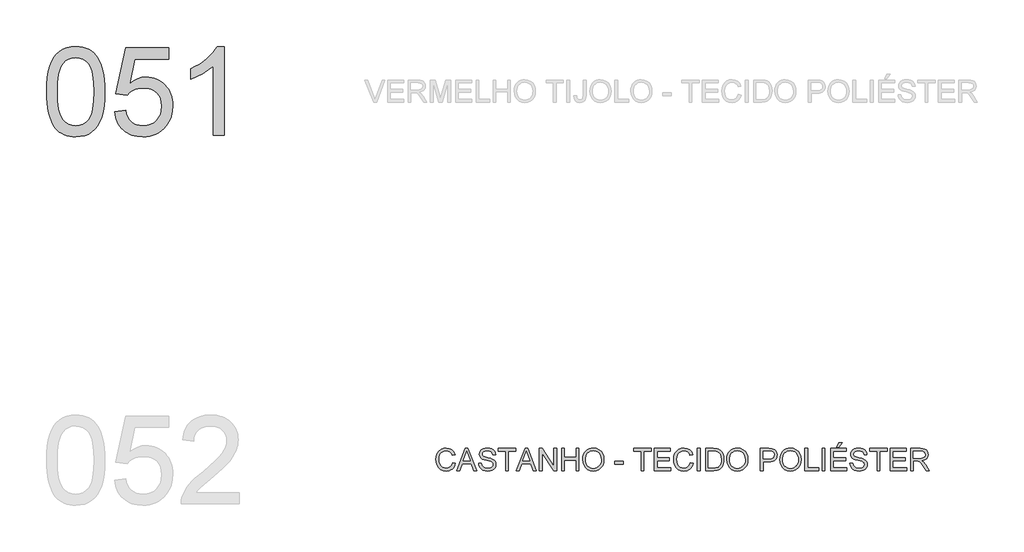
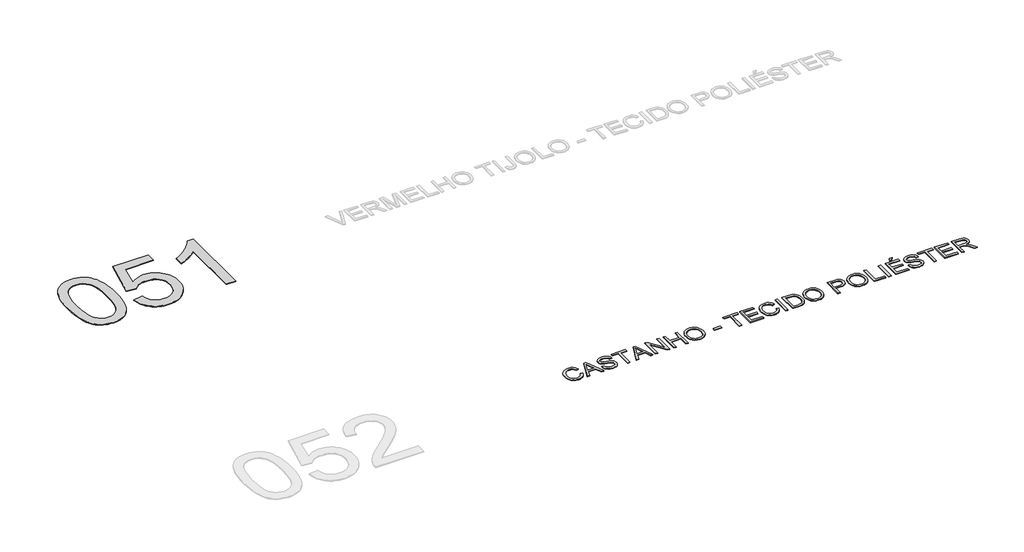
# One storey, part 23 of 39: 2 proxies.
"""IFC4 building model written with IfcOpenShell, lengths in millimetres."""

from ifc_helpers import new_model, si_unit, origin, origin_with_axes, place, context, project, spatial, polyline, outline, extrude, element, save

model = new_model("IFC4")

# Units and contexts
model_context = context("Model", 3, world=origin())
ifc_project = project(units=[si_unit("LENGTHUNIT", "METRE", prefix="MILLI")], contexts=[model_context])

# Site, building, storey
site = spatial("IfcSite", under=ifc_project)
building = spatial("IfcBuilding", under=site)
storey = spatial("IfcBuildingStorey", under=building, Name="Marelli - Linha PROFIT - Planta Baixa", Elevation=0.0)

# Proxies
placement = place(None, origin())
element("IfcBuildingElementProxy", 1, Name="1200mm Arial", ObjectType="1200mm Arial", at=placement, inside=storey, context=model_context, shape_type="SweptSolid", body=[
    extrude(outline(polyline([(-25228.2202746, -39387.5405438), (-25225.4519626, -39286.1798571), (-25217.1470265, -39194.5864374), (-25203.3054665, -39112.7602846), (-25183.9272824, -39040.7013988), (-25159.0952477, -38977.8211688), (-25128.8921359, -38923.5309833), (-25093.317947, -38877.8308425), (-25052.3726809, -38840.7207462), (-25005.918382, -38812.0075565), (-24953.8170944, -38791.4981353), (-24896.0688182, -38779.1924825), (-24832.6735534, -38775.0905983), (-24785.032835, -38777.5186194), (-24739.8201378, -38784.8026829), (-24697.0354618, -38796.9427888), (-24656.6788069, -38813.938937), (-24619.7250605, -38835.5060189), (-24587.1491098, -38861.3589261), (-24558.9509549, -38891.4976586), (-24535.1305957, -38925.9222163), (-24514.4924157, -38964.4946435), (-24495.8407986, -39007.0769844), (-24464.4972526, -39104.2714076), (-24452.5226937, -39161.4310726), (-24443.9694373, -39227.6958169), (-24438.8374834, -39303.0656407), (-24437.1268322, -39387.5405438), (-24439.867553, -39488.2574371), (-24448.0897156, -39579.3910043), (-24461.7933199, -39660.9412456), (-24480.978366, -39732.9081609), (-24505.6172626, -39795.8159821), (-24535.6824187, -39850.188941), (-24571.1738342, -39896.0270376), (-24612.0915091, -39933.3302719), (-24658.6009903, -39962.2365997), (-24710.8678248, -39982.8839766), (-24768.8920125, -39995.2724028), (-24832.6735534, -39999.4018782), (-24875.3478648, -39997.6084535), (-24915.6677315, -39992.2281793), (-24953.6331534, -39983.2610557), (-24989.2441305, -39970.7070826), (-25022.5006629, -39954.5662601), (-25053.4027505, -39934.8385881), (-25081.9503933, -39911.5240666), (-25108.1435914, -39884.6226957), (-25136.286564, -39842.0265592), (-25160.6771403, -39793.8478134), (-25181.3153202, -39740.0864583), (-25198.2011038, -39680.742494), (-25211.334491, -39615.8159204), (-25220.7154819, -39545.3067375), (-25226.3440764, -39469.2149453), (-25228.2202746, -39387.5405438)]), holes=[polyline([(-25077.5358094, -39387.2462382), (-25073.1212254, -39518.2398197), (-25059.8774736, -39624.2726077), (-25049.9446597, -39667.9287043), (-25037.8045539, -39705.3446024), (-25023.4571561, -39736.5203023), (-25006.9024663, -39761.4558037), (-24969.5256556, -39799.6327578), (-24928.0285665, -39826.9020107), (-24882.4111991, -39843.2635624), (-24832.6735534, -39848.717413), (-24782.9359076, -39843.2451683), (-24737.3185402, -39826.8284343), (-24695.8214512, -39799.4672109), (-24658.4446405, -39761.1614981), (-24641.8899507, -39736.1662158), (-24627.5425529, -39704.9583263), (-24615.402447, -39667.5378296), (-24605.4696332, -39623.9047257), (-24592.2258813, -39518.0006964), (-24587.8112974, -39387.2462382), (-24592.0787285, -39259.7199446), (-24604.881022, -39155.5541577), (-24614.482742, -39112.2314542), (-24626.2181777, -39074.7488774), (-24640.0873289, -39043.1064273), (-24656.0901957, -39017.3041039), (-24692.841607, -38977.2601487), (-24734.8169427, -38948.6573236), (-24782.0162026, -38931.4956285), (-24834.4393869, -38925.7750635), (-24883.9195153, -38930.8150468), (-24928.7643305, -38945.9349968), (-24968.9738326, -38971.1349135), (-25004.5480215, -39006.4147968), (-25021.6545343, -39034.9624397), (-25036.4801787, -39068.954736), (-25049.0249547, -39108.3916859), (-25059.2888624, -39153.2732893), (-25072.9740726, -39259.3704567), (-25077.5358094, -39387.2462382)])]), origin_with_axes(), (0.0, 0.0, 1.0), 10.0),
    extrude(outline(polyline([(-24305.2779251, -39660.3618315), (-24154.5934599, -39641.5262733), (-24143.3362708, -39689.967135), (-24126.9287338, -39731.9884559), (-24105.3708489, -39767.590236), (-24078.6626161, -39796.7724753), (-24046.8592176, -39819.4983855), (-24010.0158358, -39835.7311786), (-23968.1324706, -39845.4708544), (-23921.2091221, -39848.717413), (-23863.8195309, -39844.2016615), (-23813.1989683, -39830.654407), (-23769.3474345, -39808.0756496), (-23732.2649294, -39776.4653891), (-23702.7791875, -39737.3871242), (-23681.7179433, -39692.4043532), (-23669.0811967, -39641.5170763), (-23664.8689479, -39584.7252933), (-23668.8144823, -39531.0513102), (-23680.6510855, -39483.3370154), (-23700.3787575, -39441.5824089), (-23727.9974983, -39405.7874908), (-23763.5992783, -39377.0743011), (-23807.2760682, -39356.5648798), (-23859.0278679, -39344.2592271), (-23918.8546774, -39340.1573429), (-23957.141996, -39341.7944177), (-23991.9528298, -39346.7056424), (-24023.2871787, -39354.8910168), (-24051.1450428, -39366.3505409), (-24098.4178792, -39396.4432881), (-24135.7579017, -39434.3351336), (-24286.4423669, -39415.4995755), (-24154.5934599, -38793.9261564), (-23570.6911571, -38793.9261564), (-23570.6911571, -38944.6106217), (-24032.7509431, -38944.6106217), (-24097.2038686, -39276.5873341), (-24044.0265262, -39238.4747594), (-23989.5615968, -39211.2514918), (-23933.8090805, -39194.9175312), (-23876.7689771, -39189.4728776), (-23839.3300863, -39191.1605363), (-23803.3857161, -39196.2235123), (-23768.9358665, -39204.6618055), (-23735.9805376, -39216.4754161), (-23704.5197292, -39231.664344), (-23674.5534414, -39250.2285891), (-23646.0816742, -39272.1681516), (-23619.1044277, -39297.4830314), (-23594.5138156, -39325.4512601), (-23573.2019517, -39355.3508693), (-23555.1688362, -39387.1818589), (-23540.4144689, -39420.944229), (-23528.9388499, -39456.6379796), (-23520.7419792, -39494.2631106), (-23515.8238568, -39533.8196222), (-23514.1844827, -39575.3075142), (-23520.0889887, -39653.3720736), (-23527.4696212, -39690.3626082), (-23537.8025067, -39725.9919794), (-23551.0876453, -39760.2601873), (-23567.3250369, -39793.1672317), (-23586.5146814, -39824.7131128), (-23608.656579, -39854.8978305), (-23638.6573557, -39888.7659667), (-23671.2700946, -39918.1183514), (-23706.4947956, -39942.9549846), (-23744.3314588, -39963.2758663), (-23784.7800842, -39979.0809965), (-23827.8406717, -39990.3703752), (-23873.5132214, -39997.1440025), (-23921.7977333, -39999.4018782), (-23999.55879, -39993.5985397), (-24035.6181234, -39986.3443667), (-24069.79666, -39976.1885243), (-24102.0943999, -39963.1310128), (-24132.5113431, -39947.171832), (-24161.0474896, -39928.3109819), (-24187.7028394, -39906.5484626), (-24212.0405327, -39882.3901119), (-24233.6237095, -39856.3417673), (-24252.4523698, -39828.4034291), (-24268.5265138, -39798.5750971), (-24281.8461413, -39766.8567713), (-24292.4112523, -39733.2484518), (-24305.2779251, -39660.3618315)])), origin_with_axes(), (0.0, 0.0, 1.0), 10.0),
    extrude(outline(polyline([(-22817.268831, -39980.5663201), (-22967.9532962, -39980.5663201), (-22967.9532962, -39041.1428572), (-23030.8611174, -39092.0209371), (-23110.6915103, -39142.8254407), (-23194.4950289, -39187.2287975), (-23269.3222267, -39218.9034373), (-23269.3222267, -39076.4595287), (-23208.171042, -39045.7965644), (-23150.9745888, -39012.0801796), (-23097.7328671, -38975.3103741), (-23048.4458768, -38935.4871482), (-23004.5851459, -38894.4499116), (-22967.6222024, -38854.0380744), (-22937.5570464, -38814.2516367), (-22914.3896777, -38775.0905983), (-22817.268831, -38775.0905983), (-22817.268831, -39980.5663201)])), origin_with_axes(), (0.0, 0.0, 1.0), 10.0),
])
element("IfcBuildingElementProxy", 2, Name="300mm Arial", ObjectType="300mm Arial", at=placement, inside=storey, context=model_context, shape_type="SweptSolid", body=[
    extrude(outline(polyline([(-19717.7261045, -44423.4390831), (-19680.0549882, -44433.1511677), (-19687.5091971, -44456.5783531), (-19697.4374125, -44477.0486868), (-19709.8396342, -44494.5621691), (-19724.7158624, -44509.1187997), (-19741.7304047, -44520.5622291), (-19760.5475687, -44528.7361071), (-19781.1673546, -44533.640434), (-19803.5897622, -44535.2752096), (-19847.2849462, -44530.3271968), (-19881.9854153, -44515.4831583), (-19908.5832836, -44491.2581289), (-19927.9706647, -44458.1671434), (-19939.8072679, -44419.2636224), (-19943.7528023, -44377.6009865), (-19939.2922331, -44333.6574821), (-19925.9105256, -44295.7104543), (-19904.3066554, -44264.9647166), (-19875.1795984, -44242.6250824), (-19840.6354791, -44229.0226457), (-19802.7804218, -44224.4885001), (-19761.4764708, -44230.3562179), (-19743.5077346, -44237.6908652), (-19727.3278246, -44247.9593714), (-19713.2034552, -44260.8904235), (-19701.401341, -44276.2127086), (-19684.7638777, -44314.0309777), (-19722.434994, -44323.0072984), (-19735.4948049, -44295.5357104), (-19753.3370816, -44276.6909552), (-19776.1825535, -44265.7924511), (-19804.2519498, -44262.1596164), (-19836.6071712, -44266.1879242), (-19863.1866454, -44278.2728478), (-19883.3557758, -44297.1451941), (-19896.479966, -44321.5357704), (-19903.681256, -44349.1085259), (-19906.081686, -44377.5274101), (-19903.2397976, -44412.3290468), (-19894.7141324, -44442.421794), (-19880.1827936, -44466.6560205), (-19859.3238844, -44483.8820949), (-19834.3171058, -44494.1735937), (-19807.3421585, -44497.6040933), (-19775.897445, -44492.931992), (-19749.6950499, -44478.9156879), (-19729.9121956, -44455.702334), (-19717.7261045, -44423.4390831)])), origin_with_axes(), (0.0, 0.0, 1.0), 10.0),
    extrude(outline(polyline([(-19663.3531456, -44530.5663201), (-19543.0557332, -44229.1973896), (-19510.9764232, -44229.1973896), (-19390.6790108, -44530.5663201), (-19430.4838427, -44530.5663201), (-19464.9911738, -44436.3885293), (-19589.114559, -44436.3885293), (-19623.5483137, -44530.5663201), (-19663.3531456, -44530.5663201)]), holes=[polyline([(-19575.282196, -44398.717413), (-19478.7499604, -44398.717413), (-19505.8996517, -44324.6259792), (-19527.0160782, -44266.8685059), (-19545.77806, -44318.1512561), (-19575.282196, -44398.717413)])]), origin_with_axes(), (0.0, 0.0, 1.0), 10.0),
    extrude(outline(polyline([(-19364.5593891, -44426.9707502), (-19326.8882728, -44426.9707502), (-19322.5656594, -44447.8756446), (-19314.748167, -44464.6786547), (-19302.5528788, -44478.0143771), (-19285.0968782, -44488.517408), (-19263.7597225, -44495.332422), (-19239.9209692, -44497.6040933), (-19218.9333013, -44495.884245), (-19200.5575957, -44490.7247), (-19185.6675719, -44482.5577197), (-19175.1369498, -44471.8155654), (-19168.8737588, -44459.4823215), (-19166.7860285, -44446.5420724), (-19168.349527, -44433.932917), (-19173.0400224, -44423.0344129), (-19182.5681661, -44413.7361954), (-19198.6446093, -44405.9279001), (-19253.4958148, -44391.5437141), (-19289.5022651, -44382.0247675), (-19312.540875, -44372.9656733), (-19331.2936597, -44360.2921386), (-19344.5833968, -44344.9330653), (-19352.5020567, -44327.2195472), (-19355.1416101, -44307.4826782), (-19351.8766573, -44285.4189555), (-19342.0817992, -44264.845155), (-19326.0145531, -44247.4075484), (-19303.9324363, -44234.7524077), (-19277.4265386, -44227.054477), (-19248.0879495, -44224.4885001), (-19216.3029451, -44227.1740386), (-19188.4910662, -44235.2306543), (-19165.6455943, -44248.4928003), (-19148.7598108, -44266.7949295), (-19138.0728388, -44288.9966079), (-19133.8238018, -44313.9574013), (-19171.4949181, -44313.9574013), (-19178.4110996, -44291.4798114), (-19192.8320738, -44275.2562154), (-19215.364846, -44265.4337661), (-19246.6164215, -44262.1596164), (-19278.603761, -44265.3969779), (-19300.547922, -44275.1090626), (-19313.2398508, -44289.4012781), (-19317.4704938, -44306.3790322), (-19314.4722555, -44320.8551887), (-19305.4775407, -44332.4986539), (-19284.2139614, -44342.9097143), (-19243.9676711, -44353.541504), (-19202.4337939, -44363.6398648), (-19177.3074536, -44372.4506385), (-19155.8323421, -44386.1174547), (-19140.8503479, -44402.9848441), (-19132.0487711, -44422.868866), (-19129.1149122, -44445.5855792), (-19132.4902295, -44468.8081301), (-19142.6161814, -44490.6511236), (-19159.0789007, -44509.4498935), (-19181.4645201, -44523.539774), (-19208.3842851, -44532.3413507), (-19238.4494412, -44535.2752096), (-19275.3572024, -44532.1114244), (-19305.7350581, -44522.620069), (-19329.9324963, -44506.764355), (-19348.2990049, -44484.5074943), (-19360.0896229, -44457.3945912), (-19364.5593891, -44426.9707502)])), origin_with_axes(), (0.0, 0.0, 1.0), 10.0),
    extrude(outline(polyline([(-18997.2660051, -44530.5663201), (-18997.2660051, -44266.8685059), (-19096.1526855, -44266.8685059), (-19096.1526855, -44229.1973896), (-18860.7082085, -44229.1973896), (-18860.7082085, -44266.8685059), (-18959.5948888, -44266.8685059), (-18959.5948888, -44530.5663201), (-18997.2660051, -44530.5663201)])), origin_with_axes(), (0.0, 0.0, 1.0), 10.0),
    extrude(outline(polyline([(-18853.424145, -44530.5663201), (-18733.1267326, -44229.1973896), (-18701.0474226, -44229.1973896), (-18580.7500102, -44530.5663201), (-18620.5548421, -44530.5663201), (-18655.0621732, -44436.3885293), (-18779.1855584, -44436.3885293), (-18813.6193132, -44530.5663201), (-18853.424145, -44530.5663201)]), holes=[polyline([(-18765.3531954, -44398.717413), (-18668.8209599, -44398.717413), (-18695.9706511, -44324.6259792), (-18717.0870776, -44266.8685059), (-18735.8490594, -44318.1512561), (-18765.3531954, -44398.717413)])]), origin_with_axes(), (0.0, 0.0, 1.0), 10.0),
    extrude(outline(polyline([(-18540.5037199, -44530.5663201), (-18540.5037199, -44229.1973896), (-18500.1838533, -44229.1973896), (-18342.7303593, -44467.9528045), (-18342.7303593, -44229.1973896), (-18305.059243, -44229.1973896), (-18305.059243, -44530.5663201), (-18345.3791097, -44530.5663201), (-18502.8326036, -44291.7373288), (-18502.8326036, -44530.5663201), (-18540.5037199, -44530.5663201)])), origin_with_axes(), (0.0, 0.0, 1.0), 10.0),
    extrude(outline(polyline([(-18239.1347895, -44530.5663201), (-18239.1347895, -44229.1973896), (-18201.4636732, -44229.1973896), (-18201.4636732, -44351.6285176), (-18041.3614289, -44351.6285176), (-18041.3614289, -44229.1973896), (-18003.6903126, -44229.1973896), (-18003.6903126, -44530.5663201), (-18041.3614289, -44530.5663201), (-18041.3614289, -44389.2996339), (-18201.4636732, -44389.2996339), (-18201.4636732, -44530.5663201), (-18239.1347895, -44530.5663201)])), origin_with_axes(), (0.0, 0.0, 1.0), 10.0),
    extrude(outline(polyline([(-17951.8925277, -44383.8549804), (-17949.381733, -44348.5061192), (-17941.8493492, -44317.213157), (-17929.2953761, -44289.9760937), (-17911.7198138, -44266.7949295), (-17890.1757244, -44248.2858666), (-17865.7161703, -44235.0651074), (-17838.3411513, -44227.1326519), (-17808.0506675, -44224.4885001), (-17768.5217472, -44229.454907), (-17733.0763169, -44244.3541278), (-17703.6457573, -44268.1376988), (-17682.1614488, -44299.7571563), (-17669.0280616, -44337.68579), (-17664.6502658, -44380.3968896), (-17669.2579878, -44423.6782064), (-17683.0811538, -44462.140269), (-17705.3564086, -44493.8149087), (-17735.3203971, -44516.733957), (-17770.4623247, -44530.6398965), (-17808.2713967, -44535.2752096), (-17848.4073224, -44530.1524528), (-17884.0550877, -44514.7841825), (-17913.412071, -44490.5591531), (-17934.6756503, -44458.8661192), (-17947.5883083, -44422.3998164), (-17951.8925277, -44383.8549804)]), holes=[polyline([(-17914.2214113, -44384.2228624), (-17912.3383154, -44409.1974513), (-17906.6890275, -44431.3669401), (-17897.2735477, -44450.7313286), (-17884.0918759, -44467.2906169), (-17868.0683158, -44480.5527628), (-17850.1271707, -44490.0257242), (-17830.2684408, -44495.709501), (-17808.4921259, -44497.6040933), (-17786.3433306, -44495.6911069), (-17766.2500758, -44489.9521478), (-17748.2123618, -44480.3872159), (-17732.2301883, -44466.9963113), (-17719.1450856, -44450.0875351), (-17709.7985837, -44429.9689885), (-17704.1906825, -44406.6406715), (-17702.3213821, -44380.102584), (-17705.5219555, -44346.7540812), (-17715.1236756, -44317.9305269), (-17730.878222, -44294.358488), (-17752.5372745, -44276.7645316), (-17778.6660932, -44265.8108452), (-17807.8299383, -44262.1596164), (-17828.8497958, -44263.9185522), (-17848.3521401, -44269.1953595), (-17866.3369712, -44277.9900385), (-17882.804289, -44290.302589), (-17896.54928, -44306.7262208), (-17906.3671308, -44327.8541437), (-17912.2578412, -44353.6863575), (-17914.2214113, -44384.2228624)])]), origin_with_axes(), (0.0, 0.0, 1.0), 10.0),
    extrude(outline(polyline([(-17518.6746901, -44441.0974188), (-17518.6746901, -44403.4263025), (-17400.9524517, -44403.4263025), (-17400.9524517, -44441.0974188), (-17518.6746901, -44441.0974188)])), origin_with_axes(), (0.0, 0.0, 1.0), 10.0),
    extrude(outline(polyline([(-17160.7990852, -44530.5663201), (-17160.7990852, -44266.8685059), (-17259.6857655, -44266.8685059), (-17259.6857655, -44229.1973896), (-17024.2412886, -44229.1973896), (-17024.2412886, -44266.8685059), (-17123.1279689, -44266.8685059), (-17123.1279689, -44530.5663201), (-17160.7990852, -44530.5663201)])), origin_with_axes(), (0.0, 0.0, 1.0), 10.0),
    extrude(outline(polyline([(-16981.8612828, -44530.5663201), (-16981.8612828, -44229.1973896), (-16765.252364, -44229.1973896), (-16765.252364, -44266.8685059), (-16944.1901665, -44266.8685059), (-16944.1901665, -44356.3374072), (-16774.6701431, -44356.3374072), (-16774.6701431, -44394.0085235), (-16944.1901665, -44394.0085235), (-16944.1901665, -44492.8952038), (-16760.5434745, -44492.8952038), (-16760.5434745, -44530.5663201), (-16981.8612828, -44530.5663201)])), origin_with_axes(), (0.0, 0.0, 1.0), 10.0),
    extrude(outline(polyline([(-16492.1367708, -44423.4390831), (-16454.4656545, -44433.1511677), (-16461.9198634, -44456.5783531), (-16471.8480788, -44477.0486868), (-16484.2503005, -44494.5621691), (-16499.1265287, -44509.1187997), (-16516.141071, -44520.5622291), (-16534.958235, -44528.7361071), (-16555.5780209, -44533.640434), (-16578.0004285, -44535.2752096), (-16621.6956124, -44530.3271968), (-16656.3960816, -44515.4831583), (-16682.9939499, -44491.2581289), (-16702.381331, -44458.1671434), (-16714.2179342, -44419.2636224), (-16718.1634686, -44377.6009865), (-16713.7028994, -44333.6574821), (-16700.3211919, -44295.7104543), (-16678.7173217, -44264.9647166), (-16649.5902647, -44242.6250824), (-16615.0461454, -44229.0226457), (-16577.1910881, -44224.4885001), (-16535.8871371, -44230.3562179), (-16517.9184009, -44237.6908652), (-16501.7384909, -44247.9593714), (-16487.6141215, -44260.8904235), (-16475.8120073, -44276.2127086), (-16459.174544, -44314.0309777), (-16496.8456603, -44323.0072984), (-16509.9054712, -44295.5357104), (-16527.7477479, -44276.6909552), (-16550.5932198, -44265.7924511), (-16578.6626161, -44262.1596164), (-16611.0178375, -44266.1879242), (-16637.5973117, -44278.2728478), (-16657.7664421, -44297.1451941), (-16670.8906322, -44321.5357704), (-16678.0919223, -44349.1085259), (-16680.4923523, -44377.5274101), (-16677.6504639, -44412.3290468), (-16669.1247987, -44442.421794), (-16654.5934599, -44466.6560205), (-16633.7345507, -44483.8820949), (-16608.7277721, -44494.1735937), (-16581.7528248, -44497.6040933), (-16550.3081113, -44492.931992), (-16524.1057162, -44478.9156879), (-16504.3228619, -44455.702334), (-16492.1367708, -44423.4390831)])), origin_with_axes(), (0.0, 0.0, 1.0), 10.0),
    extrude(outline(polyline([(-16397.95898, -44530.5663201), (-16397.95898, -44229.1973896), (-16360.2878637, -44229.1973896), (-16360.2878637, -44530.5663201), (-16397.95898, -44530.5663201)])), origin_with_axes(), (0.0, 0.0, 1.0), 10.0),
    extrude(outline(polyline([(-16284.9456311, -44530.5663201), (-16284.9456311, -44229.1973896), (-16180.9821793, -44229.1973896), (-16127.1978316, -44233.5383972), (-16103.1751373, -44241.9077126), (-16082.9048394, -44255.0962821), (-16062.0643243, -44278.0521186), (-16047.2202858, -44306.5997614), (-16038.3359356, -44340.1873876), (-16035.3744856, -44378.2631741), (-16037.3794425, -44410.6091985), (-16043.3943131, -44439.0740679), (-16052.5545748, -44463.3082943), (-16063.9957048, -44482.9623899), (-16077.1658802, -44498.477813), (-16091.513278, -44510.2960221), (-16107.9851944, -44519.0608107), (-16127.5289254, -44525.4159721), (-16175.9789841, -44530.5663201), (-16284.9456311, -44530.5663201)]), holes=[polyline([(-16247.2745148, -44492.8952038), (-16180.6142973, -44492.8952038), (-16153.0415417, -44491.5340404), (-16132.1274503, -44487.4505502), (-16116.3453127, -44480.8838566), (-16104.1684187, -44472.0730828), (-16091.0810167, -44455.7667134), (-16081.2493704, -44434.6594839), (-16075.096544, -44408.6594239), (-16073.0456019, -44377.6745629), (-16077.0647127, -44336.6189322), (-16089.1220451, -44306.3054558), (-16106.9367307, -44285.4833349), (-16128.2279012, -44272.9017706), (-16149.8961507, -44268.3768221), (-16181.6443669, -44266.8685059), (-16247.2745148, -44266.8685059), (-16247.2745148, -44492.8952038)])]), origin_with_axes(), (0.0, 0.0, 1.0), 10.0),
    extrude(outline(polyline([(-15997.7033693, -44383.8549804), (-15995.1925747, -44348.5061192), (-15987.6601908, -44317.213157), (-15975.1062177, -44289.9760937), (-15957.5306554, -44266.7949295), (-15935.9865661, -44248.2858666), (-15911.5270119, -44235.0651074), (-15884.1519929, -44227.1326519), (-15853.8615092, -44224.4885001), (-15814.3325888, -44229.454907), (-15778.8871585, -44244.3541278), (-15749.4565989, -44268.1376988), (-15727.9722904, -44299.7571563), (-15714.8389032, -44337.68579), (-15710.4611074, -44380.3968896), (-15715.0688294, -44423.6782064), (-15728.8919954, -44462.140269), (-15751.1672502, -44493.8149087), (-15781.1312387, -44516.733957), (-15816.2731663, -44530.6398965), (-15854.0822384, -44535.2752096), (-15894.218164, -44530.1524528), (-15929.8659294, -44514.7841825), (-15959.2229126, -44490.5591531), (-15980.4864919, -44458.8661192), (-15993.3991499, -44422.3998164), (-15997.7033693, -44383.8549804)]), holes=[polyline([(-15960.032253, -44384.2228624), (-15958.149157, -44409.1974513), (-15952.4998691, -44431.3669401), (-15943.0843893, -44450.7313286), (-15929.9027176, -44467.2906169), (-15913.8791574, -44480.5527628), (-15895.9380124, -44490.0257242), (-15876.0792824, -44495.709501), (-15854.3029676, -44497.6040933), (-15832.1541722, -44495.6911069), (-15812.0609175, -44489.9521478), (-15794.0232034, -44480.3872159), (-15778.04103, -44466.9963113), (-15764.9559272, -44450.0875351), (-15755.6094253, -44429.9689885), (-15750.0015241, -44406.6406715), (-15748.1322237, -44380.102584), (-15751.3327971, -44346.7540812), (-15760.9345172, -44317.9305269), (-15776.6890636, -44294.358488), (-15798.3481161, -44276.7645316), (-15824.4769348, -44265.8108452), (-15853.64078, -44262.1596164), (-15874.6606375, -44263.9185522), (-15894.1629817, -44269.1953595), (-15912.1478128, -44277.9900385), (-15928.6151306, -44290.302589), (-15942.3601216, -44306.7262208), (-15952.1779724, -44327.8541437), (-15958.0686828, -44353.6863575), (-15960.032253, -44384.2228624)])]), origin_with_axes(), (0.0, 0.0, 1.0), 10.0),
    extrude(outline(polyline([(-15540.9410841, -44530.5663201), (-15540.9410841, -44229.1973896), (-15429.2521103, -44229.1973896), (-15384.2233541, -44232.0668692), (-15364.1461942, -44237.4287493), (-15347.6190956, -44246.1567496), (-15334.3109644, -44258.6463433), (-15323.8907069, -44275.2930036), (-15317.1584664, -44294.9287051), (-15314.9143862, -44316.3854225), (-15316.4296002, -44334.8852883), (-15320.9752421, -44351.9044291), (-15328.5513119, -44367.4428449), (-15339.1578097, -44381.5005356), (-15353.7190389, -44393.1531978), (-15373.1593031, -44401.476528), (-15397.4786023, -44406.470526), (-15426.6769364, -44408.1351921), (-15503.2699678, -44408.1351921), (-15503.2699678, -44530.5663201), (-15540.9410841, -44530.5663201)]), holes=[polyline([(-15503.2699678, -44370.4640758), (-15424.4696444, -44370.4640758), (-15391.0659592, -44367.005985), (-15368.9930395, -44356.6317127), (-15356.6873868, -44339.9850525), (-15352.5855025, -44317.7097977), (-15355.0043267, -44300.7872259), (-15362.260799, -44286.5134045), (-15373.4536087, -44275.7712502), (-15387.6814449, -44269.4436799), (-15425.3525612, -44266.8685059), (-15503.2699678, -44266.8685059), (-15503.2699678, -44370.4640758)])]), origin_with_axes(), (0.0, 0.0, 1.0), 10.0),
    extrude(outline(polyline([(-15277.2432699, -44383.8549804), (-15274.7324753, -44348.5061192), (-15267.2000915, -44317.213157), (-15254.6461184, -44289.9760937), (-15237.070556, -44266.7949295), (-15215.5264667, -44248.2858666), (-15191.0669126, -44235.0651074), (-15163.6918936, -44227.1326519), (-15133.4014098, -44224.4885001), (-15093.8724894, -44229.454907), (-15058.4270592, -44244.3541278), (-15028.9964996, -44268.1376988), (-15007.5121911, -44299.7571563), (-14994.3788038, -44337.68579), (-14990.0010081, -44380.3968896), (-14994.6087301, -44423.6782064), (-15008.431896, -44462.140269), (-15030.7071509, -44493.8149087), (-15060.6711394, -44516.733957), (-15095.8130669, -44530.6398965), (-15133.622139, -44535.2752096), (-15173.7580647, -44530.1524528), (-15209.40583, -44514.7841825), (-15238.7628132, -44490.5591531), (-15260.0263925, -44458.8661192), (-15272.9390506, -44422.3998164), (-15277.2432699, -44383.8549804)]), holes=[polyline([(-15239.5721536, -44384.2228624), (-15237.6890577, -44409.1974513), (-15232.0397698, -44431.3669401), (-15222.6242899, -44450.7313286), (-15209.4426182, -44467.2906169), (-15193.4190581, -44480.5527628), (-15175.477913, -44490.0257242), (-15155.6191831, -44495.709501), (-15133.8428682, -44497.6040933), (-15111.6940728, -44495.6911069), (-15091.6008181, -44489.9521478), (-15073.563104, -44480.3872159), (-15057.5809306, -44466.9963113), (-15044.4958279, -44450.0875351), (-15035.1493259, -44429.9689885), (-15029.5414248, -44406.6406715), (-15027.6721244, -44380.102584), (-15030.8726978, -44346.7540812), (-15040.4744178, -44317.9305269), (-15056.2289643, -44294.358488), (-15077.8880167, -44276.7645316), (-15104.0168354, -44265.8108452), (-15133.1806806, -44262.1596164), (-15154.2005381, -44263.9185522), (-15173.7028824, -44269.1953595), (-15191.6877134, -44277.9900385), (-15208.1550312, -44290.302589), (-15221.9000223, -44306.7262208), (-15231.717873, -44327.8541437), (-15237.6085835, -44353.6863575), (-15239.5721536, -44384.2228624)])]), origin_with_axes(), (0.0, 0.0, 1.0), 10.0),
    extrude(outline(polyline([(-14938.2032232, -44530.5663201), (-14938.2032232, -44229.1973896), (-14900.5321069, -44229.1973896), (-14900.5321069, -44492.8952038), (-14749.8476416, -44492.8952038), (-14749.8476416, -44530.5663201), (-14938.2032232, -44530.5663201)])), origin_with_axes(), (0.0, 0.0, 1.0), 10.0),
    extrude(outline(polyline([(-14702.7587463, -44530.5663201), (-14702.7587463, -44229.1973896), (-14665.0876299, -44229.1973896), (-14665.0876299, -44530.5663201), (-14702.7587463, -44530.5663201)])), origin_with_axes(), (0.0, 0.0, 1.0), 10.0),
    extrude(outline(polyline([(-14589.7453973, -44530.5663201), (-14589.7453973, -44229.1973896), (-14373.1364786, -44229.1973896), (-14373.1364786, -44266.8685059), (-14552.074281, -44266.8685059), (-14552.074281, -44356.3374072), (-14382.5542577, -44356.3374072), (-14382.5542577, -44394.0085235), (-14552.074281, -44394.0085235), (-14552.074281, -44492.8952038), (-14368.427589, -44492.8952038), (-14368.427589, -44530.5663201), (-14589.7453973, -44530.5663201)])), origin_with_axes(), (0.0, 0.0, 1.0), 10.0),
    extrude(outline(polyline([(-14504.9853856, -44210.3618315), (-14476.7320484, -44153.855157), (-14429.643153, -44153.855157), (-14476.7320484, -44210.3618315), (-14504.9853856, -44210.3618315)])), origin_with_axes(), (0.0, 0.0, 1.0), 10.0),
    extrude(outline(polyline([(-14326.0475832, -44426.9707502), (-14288.3764669, -44426.9707502), (-14284.0538534, -44447.8756446), (-14276.236361, -44464.6786547), (-14264.0410729, -44478.0143771), (-14246.5850722, -44488.517408), (-14225.2479165, -44495.332422), (-14201.4091632, -44497.6040933), (-14180.4214954, -44495.884245), (-14162.0457897, -44490.7247), (-14147.155766, -44482.5577197), (-14136.6251439, -44471.8155654), (-14130.3619529, -44459.4823215), (-14128.2742226, -44446.5420724), (-14129.8377211, -44433.932917), (-14134.5282165, -44423.0344129), (-14144.0563602, -44413.7361954), (-14160.1328034, -44405.9279001), (-14214.9840088, -44391.5437141), (-14250.9904591, -44382.0247675), (-14274.0290691, -44372.9656733), (-14292.7818538, -44360.2921386), (-14306.0715909, -44344.9330653), (-14313.9902508, -44327.2195472), (-14316.6298041, -44307.4826782), (-14313.3648514, -44285.4189555), (-14303.5699933, -44264.845155), (-14287.5027471, -44247.4075484), (-14265.4206304, -44234.7524077), (-14238.9147326, -44227.054477), (-14209.5761435, -44224.4885001), (-14177.7911391, -44227.1740386), (-14149.9792603, -44235.2306543), (-14127.1337884, -44248.4928003), (-14110.2480048, -44266.7949295), (-14099.5610329, -44288.9966079), (-14095.3119958, -44313.9574013), (-14132.9831121, -44313.9574013), (-14139.8992936, -44291.4798114), (-14154.3202678, -44275.2562154), (-14176.85304, -44265.4337661), (-14208.1046155, -44262.1596164), (-14240.091955, -44265.3969779), (-14262.036116, -44275.1090626), (-14274.7280449, -44289.4012781), (-14278.9586878, -44306.3790322), (-14275.9604495, -44320.8551887), (-14266.9657348, -44332.4986539), (-14245.7021554, -44342.9097143), (-14205.4558652, -44353.541504), (-14163.9219879, -44363.6398648), (-14138.7956476, -44372.4506385), (-14117.3205362, -44386.1174547), (-14102.3385419, -44402.9848441), (-14093.5369652, -44422.868866), (-14090.6031063, -44445.5855792), (-14093.9784236, -44468.8081301), (-14104.1043755, -44490.6511236), (-14120.5670948, -44509.4498935), (-14142.9527142, -44523.539774), (-14169.8724792, -44532.3413507), (-14199.9376352, -44535.2752096), (-14236.8453964, -44532.1114244), (-14267.2232522, -44522.620069), (-14291.4206904, -44506.764355), (-14309.787199, -44484.5074943), (-14321.577817, -44457.3945912), (-14326.0475832, -44426.9707502)])), origin_with_axes(), (0.0, 0.0, 1.0), 10.0),
    extrude(outline(polyline([(-13958.7541992, -44530.5663201), (-13958.7541992, -44266.8685059), (-14057.6408795, -44266.8685059), (-14057.6408795, -44229.1973896), (-13822.1964026, -44229.1973896), (-13822.1964026, -44266.8685059), (-13921.0830829, -44266.8685059), (-13921.0830829, -44530.5663201), (-13958.7541992, -44530.5663201)])), origin_with_axes(), (0.0, 0.0, 1.0), 10.0),
    extrude(outline(polyline([(-13779.8163968, -44530.5663201), (-13779.8163968, -44229.1973896), (-13563.207478, -44229.1973896), (-13563.207478, -44266.8685059), (-13742.1452804, -44266.8685059), (-13742.1452804, -44356.3374072), (-13572.6252571, -44356.3374072), (-13572.6252571, -44394.0085235), (-13742.1452804, -44394.0085235), (-13742.1452804, -44492.8952038), (-13558.4985885, -44492.8952038), (-13558.4985885, -44530.5663201), (-13779.8163968, -44530.5663201)])), origin_with_axes(), (0.0, 0.0, 1.0), 10.0),
    extrude(outline(polyline([(-13501.991914, -44530.5663201), (-13501.991914, -44229.1973896), (-13372.1295697, -44229.1973896), (-13337.2267654, -44231.2299376), (-13311.8337107, -44237.3275817), (-13293.274064, -44248.5847708), (-13278.8714839, -44266.0959537), (-13269.6284488, -44287.8101885), (-13266.5474371, -44311.6765329), (-13271.6517998, -44341.3646099), (-13286.9648878, -44365.9759154), (-13298.564667, -44376.0052983), (-13312.9465537, -44384.0205273), (-13350.05665, -44394.0085235), (-13328.6459179, -44410.1217548), (-13298.1117123, -44448.8965171), (-13247.8590317, -44530.5663201), (-13291.6369892, -44530.5663201), (-13330.8532098, -44468.0999573), (-13359.1801235, -44426.750021), (-13379.0825394, -44407.2154871), (-13396.9983926, -44400.0417882), (-13418.8505831, -44398.717413), (-13464.3207977, -44398.717413), (-13464.3207977, -44530.5663201), (-13501.991914, -44530.5663201)]), holes=[polyline([(-13464.3207977, -44361.0462967), (-13380.0022444, -44361.0462967), (-13355.7864121, -44359.7127245), (-13336.9968392, -44355.7120078), (-13322.8517764, -44348.7774322), (-13312.5694747, -44338.6422832), (-13306.3062837, -44326.3826157), (-13304.2185534, -44313.0744845), (-13308.200876, -44294.6987789), (-13320.1478438, -44279.8915286), (-13340.7032503, -44270.1242616), (-13370.5108889, -44266.8685059), (-13464.3207977, -44266.8685059), (-13464.3207977, -44361.0462967)])]), origin_with_axes(), (0.0, 0.0, 1.0), 10.0),
])

save(model, "model.ifc")
